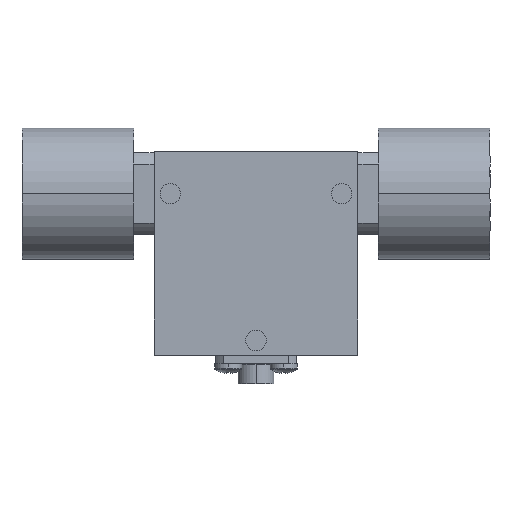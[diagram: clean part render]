
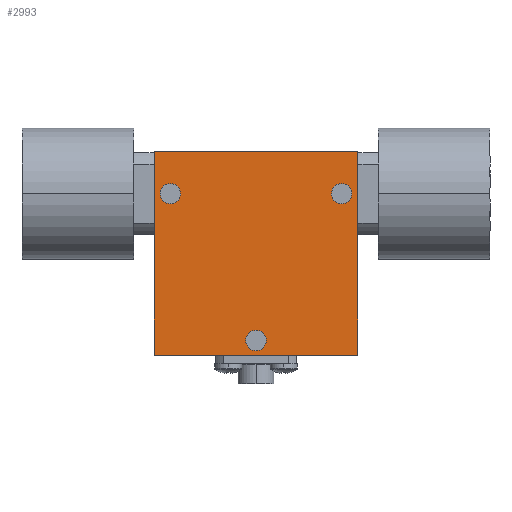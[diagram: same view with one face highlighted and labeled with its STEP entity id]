
A CAD part, top view. The second image highlights one B-rep face of the part: STEP entity #2993.
In plain terms, the highlighted planar face has unit normal (0, 0, 1) as drawn and (0, 0, -1) by its records, which use the part's own axes.
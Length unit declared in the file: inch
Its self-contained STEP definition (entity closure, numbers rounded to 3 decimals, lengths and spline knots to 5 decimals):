
#33 = DIRECTION ( 'NONE',  ( 1., 0., 0. ) ) ;
#71 = PLANE ( 'NONE',  #2082 ) ;
#161 = ORIENTED_EDGE ( 'NONE', *, *, #1001, .F. ) ;
#172 = ORIENTED_EDGE ( 'NONE', *, *, #2063, .T. ) ;
#250 = VERTEX_POINT ( 'NONE', #806 ) ;
#251 = AXIS2_PLACEMENT_3D ( 'NONE', #1855, #2138, #2687 ) ;
#373 = AXIS2_PLACEMENT_3D ( 'NONE', #3669, #3657, #2809 ) ;
#475 = CARTESIAN_POINT ( 'NONE',  ( -0.625, 0.625, -0.365 ) ) ;
#515 = CARTESIAN_POINT ( 'NONE',  ( -0.525, 0.365, -0.365 ) ) ;
#519 = EDGE_CURVE ( 'NONE', #2289, #3204, #2905, .T. ) ;
#589 = FACE_OUTER_BOUND ( 'NONE', #1946, .T. ) ;
#607 = CARTESIAN_POINT ( 'NONE',  ( 0.5875, 0.365, -0.365 ) ) ;
#620 = CARTESIAN_POINT ( 'NONE',  ( -0.625, 0.625, -0.365 ) ) ;
#629 = CIRCLE ( 'NONE', #251, 0.0625 ) ;
#688 = VERTEX_POINT ( 'NONE', #607 ) ;
#700 = DIRECTION ( 'NONE',  ( 0., 0., 1. ) ) ;
#772 = EDGE_CURVE ( 'NONE', #3204, #250, #3661, .T. ) ;
#806 = CARTESIAN_POINT ( 'NONE',  ( -0.625, 0.625, -0.365 ) ) ;
#815 = EDGE_LOOP ( 'NONE', ( #3556, #2813 ) ) ;
#841 = CARTESIAN_POINT ( 'NONE',  ( 0.625, 0.625, -0.365 ) ) ;
#867 = AXIS2_PLACEMENT_3D ( 'NONE', #1970, #700, #1284 ) ;
#962 = FACE_BOUND ( 'NONE', #2158, .T. ) ;
#1001 = EDGE_CURVE ( 'NONE', #2769, #2289, #2419, .T. ) ;
#1029 = DIRECTION ( 'NONE',  ( 1., 0., 0. ) ) ;
#1113 = VERTEX_POINT ( 'NONE', #3229 ) ;
#1143 = DIRECTION ( 'NONE',  ( 0., 0., 1. ) ) ;
#1175 = VERTEX_POINT ( 'NONE', #3596 ) ;
#1186 = VECTOR ( 'NONE', #1700, 39.37008 ) ;
#1218 = ORIENTED_EDGE ( 'NONE', *, *, #3583, .T. ) ;
#1284 = DIRECTION ( 'NONE',  ( 1., 0., 0. ) ) ;
#1307 = CARTESIAN_POINT ( 'NONE',  ( -0.4625, 0.365, -0.365 ) ) ;
#1312 = ORIENTED_EDGE ( 'NONE', *, *, #3199, .F. ) ;
#1314 = VERTEX_POINT ( 'NONE', #3288 ) ;
#1325 = ORIENTED_EDGE ( 'NONE', *, *, #3679, .T. ) ;
#1472 = ORIENTED_EDGE ( 'NONE', *, *, #772, .F. ) ;
#1480 = DIRECTION ( 'NONE',  ( 0., 0., 1. ) ) ;
#1506 = VECTOR ( 'NONE', #2383, 39.37008 ) ;
#1559 = LINE ( 'NONE', #475, #2429 ) ;
#1567 = EDGE_LOOP ( 'NONE', ( #1325, #2386 ) ) ;
#1700 = DIRECTION ( 'NONE',  ( 0., 1., 0. ) ) ;
#1855 = CARTESIAN_POINT ( 'NONE',  ( 0.525, 0.365, -0.365 ) ) ;
#1946 = EDGE_LOOP ( 'NONE', ( #3227, #161, #1312, #1472 ) ) ;
#1970 = CARTESIAN_POINT ( 'NONE',  ( -0.525, 0.365, -0.365 ) ) ;
#1998 = CIRCLE ( 'NONE', #2928, 0.0625 ) ;
#2020 = VERTEX_POINT ( 'NONE', #1307 ) ;
#2023 = VECTOR ( 'NONE', #1029, 39.37008 ) ;
#2063 = EDGE_CURVE ( 'NONE', #688, #1113, #2484, .T. ) ;
#2082 = AXIS2_PLACEMENT_3D ( 'NONE', #2160, #3618, #3604 ) ;
#2138 = DIRECTION ( 'NONE',  ( 0., 0., 1. ) ) ;
#2158 = EDGE_LOOP ( 'NONE', ( #172, #1218 ) ) ;
#2160 = CARTESIAN_POINT ( 'NONE',  ( 0., 0., -0.365 ) ) ;
#2229 = EDGE_CURVE ( 'NONE', #2654, #2020, #1998, .T. ) ;
#2246 = CIRCLE ( 'NONE', #867, 0.0625 ) ;
#2289 = VERTEX_POINT ( 'NONE', #2621 ) ;
#2366 = CARTESIAN_POINT ( 'NONE',  ( 0., -0.535, -0.365 ) ) ;
#2383 = DIRECTION ( 'NONE',  ( -1., 0., 0. ) ) ;
#2386 = ORIENTED_EDGE ( 'NONE', *, *, #2229, .T. ) ;
#2419 = LINE ( 'NONE', #3402, #2023 ) ;
#2429 = VECTOR ( 'NONE', #2819, 39.37008 ) ;
#2484 = CIRCLE ( 'NONE', #373, 0.0625 ) ;
#2498 = EDGE_CURVE ( 'NONE', #1314, #1175, #3718, .T. ) ;
#2593 = CARTESIAN_POINT ( 'NONE',  ( 0.625, 0.625, -0.365 ) ) ;
#2621 = CARTESIAN_POINT ( 'NONE',  ( 0.625, -0.625, -0.365 ) ) ;
#2654 = VERTEX_POINT ( 'NONE', #3664 ) ;
#2655 = DIRECTION ( 'NONE',  ( 1., 0., 0. ) ) ;
#2687 = DIRECTION ( 'NONE',  ( 1., 0., 0. ) ) ;
#2769 = VERTEX_POINT ( 'NONE', #3750 ) ;
#2800 = CIRCLE ( 'NONE', #3383, 0.0625 ) ;
#2809 = DIRECTION ( 'NONE',  ( 1., 0., 0. ) ) ;
#2813 = ORIENTED_EDGE ( 'NONE', *, *, #3375, .T. ) ;
#2819 = DIRECTION ( 'NONE',  ( 0., -1., 0. ) ) ;
#2905 = LINE ( 'NONE', #841, #1186 ) ;
#2928 = AXIS2_PLACEMENT_3D ( 'NONE', #515, #1143, #3787 ) ;
#2959 = CARTESIAN_POINT ( 'NONE',  ( 0., -0.535, -0.365 ) ) ;
#2993 = ADVANCED_FACE ( 'NONE', ( #962, #3812, #3712, #589 ), #71, .F. ) ;
#3199 = EDGE_CURVE ( 'NONE', #250, #2769, #1559, .T. ) ;
#3204 = VERTEX_POINT ( 'NONE', #2593 ) ;
#3218 = DIRECTION ( 'NONE',  ( 0., 0., 1. ) ) ;
#3227 = ORIENTED_EDGE ( 'NONE', *, *, #519, .F. ) ;
#3229 = CARTESIAN_POINT ( 'NONE',  ( 0.4625, 0.365, -0.365 ) ) ;
#3288 = CARTESIAN_POINT ( 'NONE',  ( 0.0625, -0.535, -0.365 ) ) ;
#3375 = EDGE_CURVE ( 'NONE', #1175, #1314, #2800, .T. ) ;
#3383 = AXIS2_PLACEMENT_3D ( 'NONE', #2366, #3218, #2655 ) ;
#3402 = CARTESIAN_POINT ( 'NONE',  ( -0.625, -0.625, -0.365 ) ) ;
#3475 = AXIS2_PLACEMENT_3D ( 'NONE', #2959, #1480, #33 ) ;
#3556 = ORIENTED_EDGE ( 'NONE', *, *, #2498, .T. ) ;
#3583 = EDGE_CURVE ( 'NONE', #1113, #688, #629, .T. ) ;
#3596 = CARTESIAN_POINT ( 'NONE',  ( -0.0625, -0.535, -0.365 ) ) ;
#3604 = DIRECTION ( 'NONE',  ( 1., 0., 0. ) ) ;
#3618 = DIRECTION ( 'NONE',  ( 0., 0., 1. ) ) ;
#3657 = DIRECTION ( 'NONE',  ( 0., 0., 1. ) ) ;
#3661 = LINE ( 'NONE', #620, #1506 ) ;
#3664 = CARTESIAN_POINT ( 'NONE',  ( -0.5875, 0.365, -0.365 ) ) ;
#3669 = CARTESIAN_POINT ( 'NONE',  ( 0.525, 0.365, -0.365 ) ) ;
#3679 = EDGE_CURVE ( 'NONE', #2020, #2654, #2246, .T. ) ;
#3712 = FACE_BOUND ( 'NONE', #1567, .T. ) ;
#3718 = CIRCLE ( 'NONE', #3475, 0.0625 ) ;
#3750 = CARTESIAN_POINT ( 'NONE',  ( -0.625, -0.625, -0.365 ) ) ;
#3787 = DIRECTION ( 'NONE',  ( 1., 0., 0. ) ) ;
#3812 = FACE_BOUND ( 'NONE', #815, .T. ) ;
